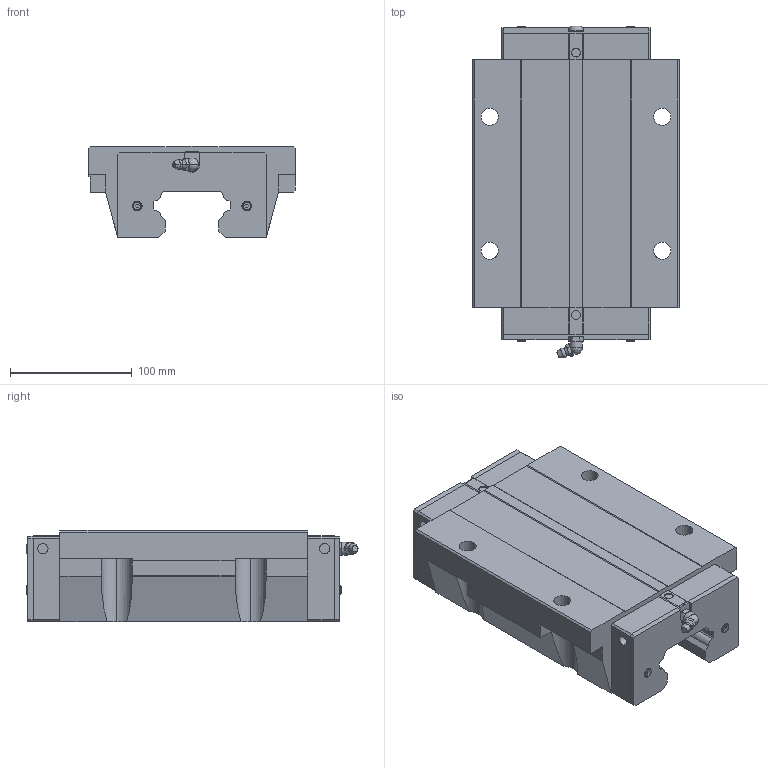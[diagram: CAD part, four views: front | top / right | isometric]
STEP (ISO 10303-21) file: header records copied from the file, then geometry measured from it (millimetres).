
FILE_DESCRIPTION(('no description'),'unknown implementation level');
FILE_NAME('HGW65HC_Z0_H_SS_29.stp',' ',('HIWIN GmbH'),('CADClick - KiM GmbH - www.kimweb.de'),'unknown preprocess','ACIS','unknown authorization');
FILE_SCHEMA(('automotive_design'));
Length unit declared in the file: millimetre
Products named in the file (1): HGW65HC Z0 H SS
Bounding box: 170 x 272.92 x 75 mm (x, y, z)
Volume: 2138226.4 mm3; surface area: 166647.4 mm2
Topology: 1 solids, 6 shells, 305 faces, 787 edges, 509 vertices
Faces by surface type: plane 191, cylinder 68, torus 30, cone 14, sphere 2
Entity records: 18380 total; most frequent: CARTESIAN_POINT 1900, STYLED_ITEM 1600, PRESENTATION_STYLE_ASSIGNMENT 1600, COLOUR_RGB 1600, DIRECTION 1574, ORIENTED_EDGE 1570, EDGE_CURVE 785, CURVE_STYLE 785
